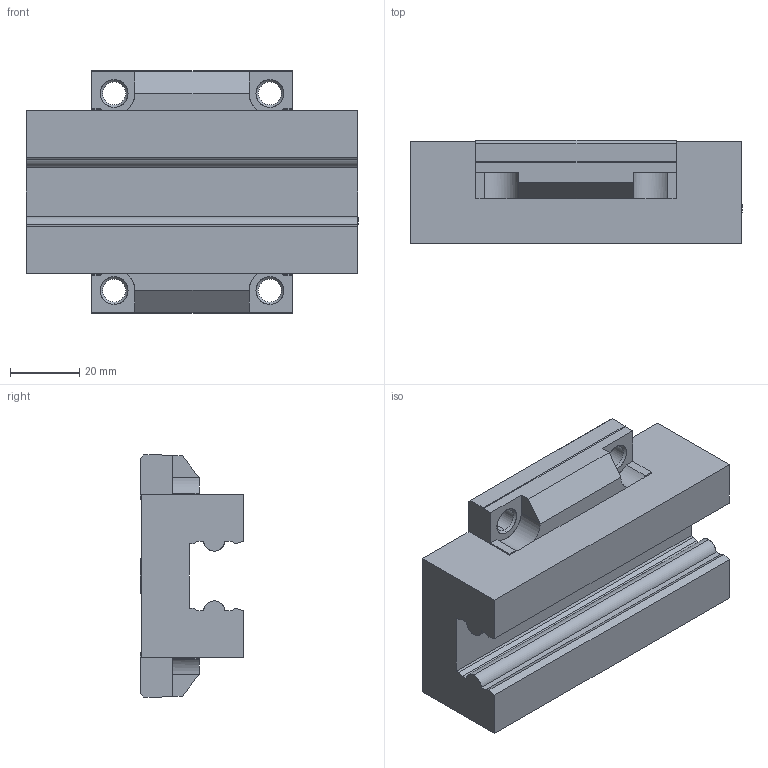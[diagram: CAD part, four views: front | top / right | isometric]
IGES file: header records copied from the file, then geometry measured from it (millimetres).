
Start section: SolidWorks IGES file using analytic representation for surfaces
Global section: file name: V:\webhosting\solidcomponents\www\company\out\15486723\FNS-2500\FNS-2500.igs; native system: SolidWorks 2010; preprocessor: SolidWorks 2010; author: CShared; date: 220519.021800; units: millimetre
Bounding box: 96 x 29.9 x 70 mm (x, y, z)
Surface area: 24339.3 mm2 (no closed solid volume)
Topology: 0 solids, 0 shells, 109 faces, 964 edges, 964 vertices
Faces by surface type: bspline 76, revolution 33
